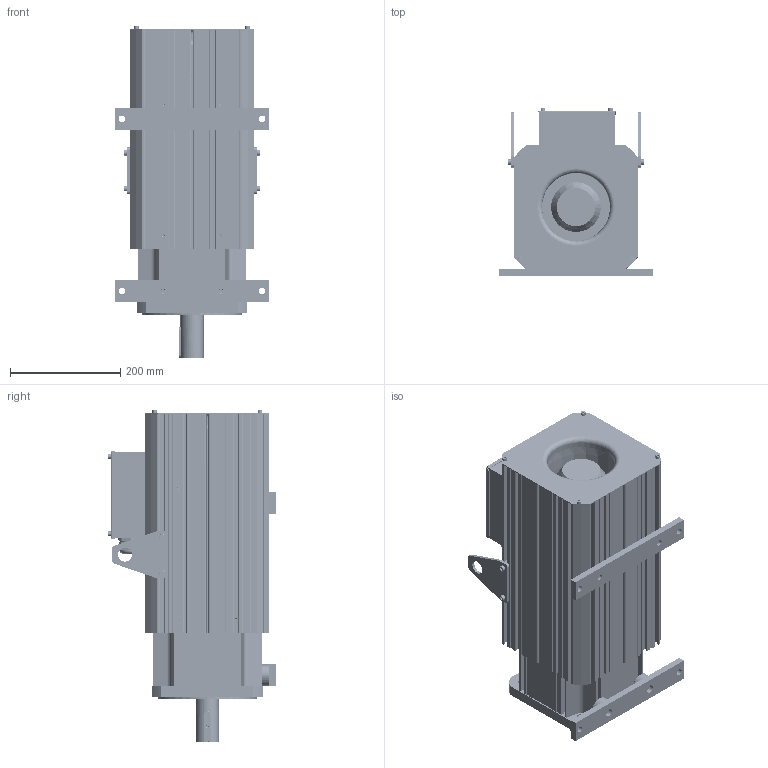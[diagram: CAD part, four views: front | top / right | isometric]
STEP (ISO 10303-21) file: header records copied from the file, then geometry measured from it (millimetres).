
FILE_DESCRIPTION (( 'STEP AP203' ), '1' );
FILE_NAME ('ZE1807.STEP', '2024-08-13T06:00:24', ( 'MicroSoft' ), ( 'MicroSoft' ), 'SwSTEP 2.0', 'SolidWorks 2020', '' );
FILE_SCHEMA (( 'CONFIG_CONTROL_DESIGN' ));
Length unit declared in the file: millimetre
Products named in the file (42): M6 T倰蹟譫; 内六角圆柱头螺钉[GB／T70.1-2008][M5×35]_M5×10; 裂嫉; Z18-01-24(18諉盄碟); 18风扇-175FLW-3 380V（3080103010006）; 内六角圆柱头螺钉[GB／T70.1-2008][M6×16]_M6×16; Z18-01-09(粣創嶺裔)_都寞; PG 13.5滅阨諉芛 2; 内六角圆柱头螺钉[GB／T70.1-2008][M5×10]_M5×10; PG 13.5滅阨諉芛; Z18-01-25(18机壳护线圈); Z18-01-02(18前法兰); Z18-01-18(絳瑞啣C)_1807; 内六角圆柱头螺钉[GB／T70.1-2008][M8×30]_M8×30; 傷赽齬嘐隅え; M32X1.5滅阨諉芛 1; Z18-01-16(絳瑞啣A)_1807; 傷赽齬; Z18-01-17(絳瑞啣B)_1807; Z18-01-22(18瑞圮假蚾啣); Z18-01-21(18綴結啣); Z18-01-19(絳瑞啣D)_1807; Z18-01-01(18儂褲)_1807; Z18-01-04A(18锥轴全系列)半开放键槽_1807; GB╱T 276-2013[深沟球轴承[60000]6306]; 18萇儂霧齪; 90僅濮揤傷赽; GB／T276-94深沟球轴承6309-2Z; PG 13.5滅阨諉芛 1; Z18-01-23(18唅曹裔啣); Z18-01-15(萇儂菁褐盓殤-2); PG 13.5滅阨諉芛 3; 18す瑩ㄗ12-8-56ㄘ; Z18-01-14(萇儂菁褐盓殤-1); Z航插15芯（公头电机端）28; M32X1.5滅阨諉芛; Z18-01-20(18盓殤菜輸); 18 萇儂諉盄碟裔; ZE1807; M32X1.5滅阨諉芛 3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
Assembly tree (73 placements, depth 3):
  ZE1807
    Z18-01-01(18儂褲)_1807
    Z18-01-02(18前法兰)
    Z18-01-03(18极胜后法兰)_常规款
    Z18-01-04A(18锥轴全系列)半开放键槽_1807
    Z18-01-09(粣創嶺裔)_都寞
    Z18-01-14(萇儂菁褐盓殤-1)
    Z18-01-15(萇儂菁褐盓殤-2)
    Z18-01-20(18盓殤菜輸)  x2
    Z18-01-21(18綴結啣)
    Z18-01-22(18瑞圮假蚾啣)
    GB／T276-94深沟球轴承6309-2Z
    GB╱T 276-2013[深沟球轴承[60000]6306]
    18す瑩ㄗ12-8-56ㄘ
    Z18-01-24(18諉盄碟)
    18风扇-175FLW-3 380V（3080103010006）
    18萇儂霧齪
    Z18-01-23(18唅曹裔啣)
    Z18-01-25(18机壳护线圈)
    Z18-01-16(絳瑞啣A)_1807
    Z18-01-17(絳瑞啣B)_1807
    Z18-01-18(絳瑞啣C)_1807  x3
    Z18-01-19(絳瑞啣D)_1807  x3
    傷赽齬嘐隅え
    傷赽齬
    90僅濮揤傷赽  x3
    18 萇儂諉盄碟裔
    内六角圆柱头螺钉[GB／T70.1-2008][M5×10]_M5×10  x8
    内六角圆柱头螺钉[GB／T70.1-2008][M8×30]_M8×30  x8
    内六角圆柱头螺钉[GB／T70.1-2008][M5×35]_M5×10  x5
    裂嫉  x2
    内六角圆柱头螺钉[GB／T70.1-2008][M6×16]_M6×16  x4
    M6 T倰蹟譫  x4
    Z航插15芯（公头电机端）28
    PG 13.5滅阨諉芛
      PG 13.5滅阨諉芛 2
      PG 13.5滅阨諉芛 3
      PG 13.5滅阨諉芛 1
    M32X1.5滅阨諉芛
      M32X1.5滅阨諉芛 2
      M32X1.5滅阨諉芛 3
      M32X1.5滅阨諉芛 1
Bounding box: 277 x 303.5 x 601 mm (x, y, z)
Volume: 9357997.7 mm3; surface area: 3038358.9 mm2
Topology: 84 solids, 84 shells, 4378 faces, 11805 edges, 7590 vertices
Faces by surface type: cylinder 1784, plane 1769, cone 309, torus 196, sphere 173, bspline 147
Entity records: 134317 total; most frequent: CARTESIAN_POINT 49990, ORIENTED_EDGE 17138, DIRECTION 16101, EDGE_CURVE 8569, AXIS2_PLACEMENT_3D 6016, VERTEX_POINT 5578, VECTOR 4069, LINE 4069
